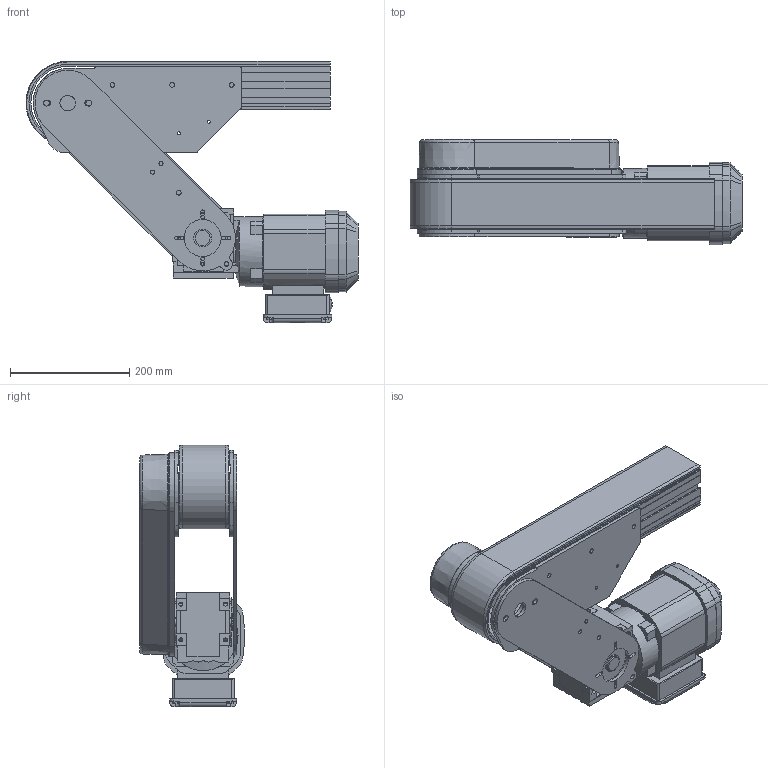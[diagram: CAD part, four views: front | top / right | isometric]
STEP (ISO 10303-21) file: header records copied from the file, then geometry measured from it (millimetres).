
FILE_DESCRIPTION((''),'2;1');
FILE_NAME('C:\Vault Klient\Projekt\Koncept konstruktion\Serie 830 Drivenhet\830-324H.stp','2010-05-24T15:30:11',('Mathias'),(''),'Autodesk Inventor 2010','Autodesk Inventor 2010','');
FILE_SCHEMA(('CONFIG_CONTROL_DESIGN'));
Length unit declared in the file: millimetre
Products named in the file (5): 830-324H; Serie 830 Drivände; 900-3120; 900-4030; 900-2260
Assembly tree (5 placements, depth 2):
  830-324H
    Serie 830 Drivände
    900-3120  x2
    900-4030
    900-2260
Bounding box: 556.74 x 175.64 x 438.27 mm (x, y, z)
Volume: 8593490.9 mm3; surface area: 1016140 mm2
Topology: 5 solids, 8 shells, 723 faces, 1998 edges, 1304 vertices
Faces by surface type: plane 422, cylinder 253, bspline 24, cone 16, torus 6, sphere 2
Full cylindrical faces by diameter (mm): 6 x9, 6.6 x8, 6.912 x4, 8 x10, 10 x4, 20 x1, 25 x1, 26 x4, 28 x1, 30 x2, 62 x2, 117 x1
Entity records: 22959 total; most frequent: CARTESIAN_POINT 4491, DIRECTION 3668, ORIENTED_EDGE 3658, EDGE_CURVE 1829, VECTOR 1240, LINE 1240, VERTEX_POINT 1221, AXIS2_PLACEMENT_3D 1214
